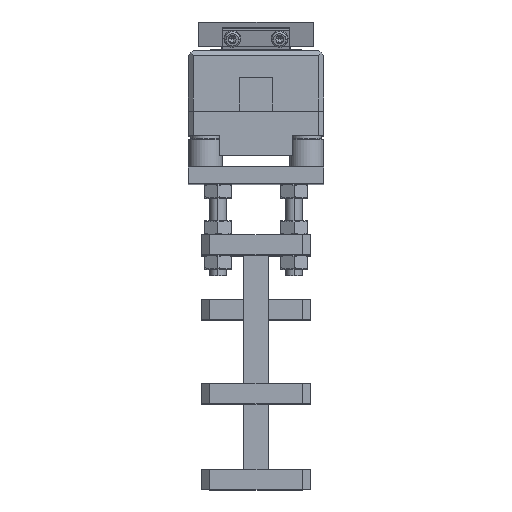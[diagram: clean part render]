
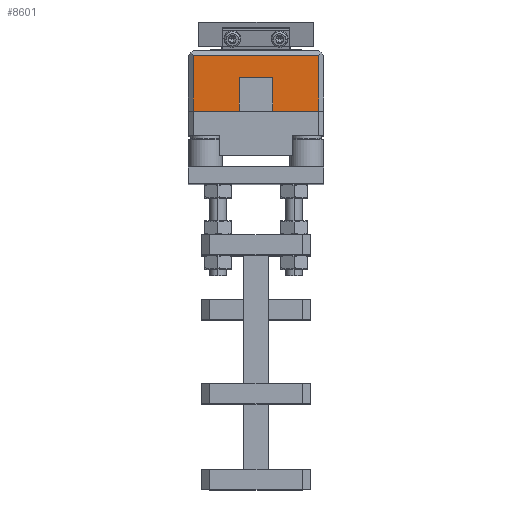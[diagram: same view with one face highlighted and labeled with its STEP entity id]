
A CAD part, top view. The second image highlights one B-rep face of the part: STEP entity #8601.
In plain terms, the highlighted planar face has unit normal (0, 0, 1).
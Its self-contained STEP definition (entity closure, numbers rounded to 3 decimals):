
#140 = LINE ( 'NONE', #32328, #6900 ) ;
#2876 = CARTESIAN_POINT ( 'NONE',  ( 53.637, 163.12, 43.708 ) ) ;
#2952 = AXIS2_PLACEMENT_3D ( 'NONE', #17420, #28514, #9156 ) ;
#4212 = ORIENTED_EDGE ( 'NONE', *, *, #9042, .T. ) ;
#4919 = EDGE_LOOP ( 'NONE', ( #15860, #21728, #11523, #22361, #4212, #11437, #13753, #11051 ) ) ;
#4979 = EDGE_CURVE ( 'NONE', #30721, #34553, #18933, .T. ) ;
#5053 = DIRECTION ( 'NONE',  ( 0., 1., 0. ) ) ;
#5691 = VECTOR ( 'NONE', #15891, 1000. ) ;
#6900 = VECTOR ( 'NONE', #7707, 1000. ) ;
#7246 = VECTOR ( 'NONE', #29542, 1000. ) ;
#7707 = DIRECTION ( 'NONE',  ( 0., -1., 0. ) ) ;
#7761 = LINE ( 'NONE', #27134, #23668 ) ;
#7943 = DIRECTION ( 'NONE',  ( 0., -1., 0. ) ) ;
#8332 = CARTESIAN_POINT ( 'NONE',  ( 53.637, 163.12, 43.708 ) ) ;
#8601 = ADVANCED_FACE ( 'NONE', ( #33938 ), #12542, .T. ) ;
#8704 = CARTESIAN_POINT ( 'NONE',  ( 53.637, 183.12, 43.708 ) ) ;
#9042 = EDGE_CURVE ( 'NONE', #24392, #31806, #7761, .T. ) ;
#9148 = VECTOR ( 'NONE', #11899, 1000. ) ;
#9156 = DIRECTION ( 'NONE',  ( 1., 0., 0. ) ) ;
#10504 = CARTESIAN_POINT ( 'NONE',  ( 33.637, 183.12, 43.708 ) ) ;
#11051 = ORIENTED_EDGE ( 'NONE', *, *, #25182, .F. ) ;
#11437 = ORIENTED_EDGE ( 'NONE', *, *, #16903, .F. ) ;
#11517 = VECTOR ( 'NONE', #5053, 1000. ) ;
#11523 = ORIENTED_EDGE ( 'NONE', *, *, #4979, .T. ) ;
#11899 = DIRECTION ( 'NONE',  ( -1., 0., 0. ) ) ;
#11962 = VERTEX_POINT ( 'NONE', #21580 ) ;
#12414 = CARTESIAN_POINT ( 'NONE',  ( 3.637, 196.12, 43.708 ) ) ;
#12542 = PLANE ( 'NONE',  #2952 ) ;
#12874 = VERTEX_POINT ( 'NONE', #8704 ) ;
#13753 = ORIENTED_EDGE ( 'NONE', *, *, #30506, .F. ) ;
#13918 = DIRECTION ( 'NONE',  ( 0., 1., 0. ) ) ;
#14283 = LINE ( 'NONE', #8332, #30802 ) ;
#14320 = EDGE_CURVE ( 'NONE', #30721, #17482, #32965, .T. ) ;
#14374 = CARTESIAN_POINT ( 'NONE',  ( 6.637, 196.12, 43.708 ) ) ;
#14452 = EDGE_CURVE ( 'NONE', #34553, #24392, #16813, .T. ) ;
#15301 = VECTOR ( 'NONE', #24882, 1000. ) ;
#15860 = ORIENTED_EDGE ( 'NONE', *, *, #33173, .F. ) ;
#15891 = DIRECTION ( 'NONE',  ( -1., 0., 0. ) ) ;
#16254 = VERTEX_POINT ( 'NONE', #20130 ) ;
#16813 = LINE ( 'NONE', #12414, #15301 ) ;
#16903 = EDGE_CURVE ( 'NONE', #11962, #31806, #34335, .T. ) ;
#17070 = CARTESIAN_POINT ( 'NONE',  ( 80.637, 163.12, 43.708 ) ) ;
#17420 = CARTESIAN_POINT ( 'NONE',  ( 3.637, 199.12, 43.708 ) ) ;
#17465 = CARTESIAN_POINT ( 'NONE',  ( 3.637, 163.12, 43.708 ) ) ;
#17482 = VERTEX_POINT ( 'NONE', #2876 ) ;
#18616 = CARTESIAN_POINT ( 'NONE',  ( 3.637, 163.12, 43.708 ) ) ;
#18933 = LINE ( 'NONE', #24481, #11517 ) ;
#20130 = CARTESIAN_POINT ( 'NONE',  ( 33.637, 183.12, 43.708 ) ) ;
#21580 = CARTESIAN_POINT ( 'NONE',  ( 33.637, 163.12, 43.708 ) ) ;
#21728 = ORIENTED_EDGE ( 'NONE', *, *, #14320, .F. ) ;
#22361 = ORIENTED_EDGE ( 'NONE', *, *, #14452, .T. ) ;
#23668 = VECTOR ( 'NONE', #7943, 1000. ) ;
#24392 = VERTEX_POINT ( 'NONE', #14374 ) ;
#24481 = CARTESIAN_POINT ( 'NONE',  ( 80.637, 199.12, 43.708 ) ) ;
#24689 = LINE ( 'NONE', #10504, #5691 ) ;
#24882 = DIRECTION ( 'NONE',  ( -1., 0., 0. ) ) ;
#25182 = EDGE_CURVE ( 'NONE', #12874, #16254, #24689, .T. ) ;
#25373 = CARTESIAN_POINT ( 'NONE',  ( 80.637, 196.12, 43.708 ) ) ;
#27134 = CARTESIAN_POINT ( 'NONE',  ( 6.637, 163.12, 43.708 ) ) ;
#28514 = DIRECTION ( 'NONE',  ( 0., 0., 1. ) ) ;
#29542 = DIRECTION ( 'NONE',  ( -1., 0., 0. ) ) ;
#30506 = EDGE_CURVE ( 'NONE', #16254, #11962, #140, .T. ) ;
#30721 = VERTEX_POINT ( 'NONE', #17070 ) ;
#30802 = VECTOR ( 'NONE', #13918, 1000. ) ;
#31257 = CARTESIAN_POINT ( 'NONE',  ( 6.637, 163.12, 43.708 ) ) ;
#31806 = VERTEX_POINT ( 'NONE', #31257 ) ;
#32328 = CARTESIAN_POINT ( 'NONE',  ( 33.637, 163.12, 43.708 ) ) ;
#32965 = LINE ( 'NONE', #18616, #7246 ) ;
#33173 = EDGE_CURVE ( 'NONE', #17482, #12874, #14283, .T. ) ;
#33938 = FACE_OUTER_BOUND ( 'NONE', #4919, .T. ) ;
#34335 = LINE ( 'NONE', #17465, #9148 ) ;
#34553 = VERTEX_POINT ( 'NONE', #25373 ) ;
